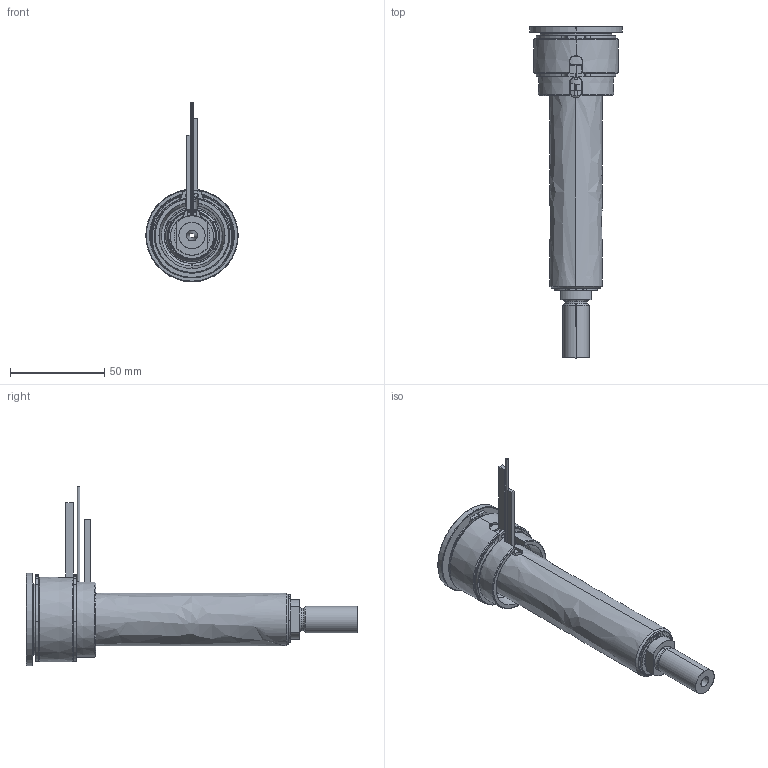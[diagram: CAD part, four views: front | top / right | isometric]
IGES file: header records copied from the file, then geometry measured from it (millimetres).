
Start section: SolidWorks IGES file using analytic representation for surfaces
Global section: file name: C:\Documents and Settings\ws-20\Desktop\TEM\UGBE4503-S-A-P-3 [Ød-2.5 P-25 ØC-10].IGS; native system: SolidWorks 2012; preprocessor: SolidWorks 2012; author: ws-20; date: 120412.154734; units: millimetre
Bounding box: 49 x 176 x 95.15 mm (x, y, z)
Surface area: 58205.5 mm2 (no closed solid volume)
Topology: 0 solids, 0 shells, 167 faces, 3103 edges, 3103 vertices
Faces by surface type: revolution 107, bspline 60
